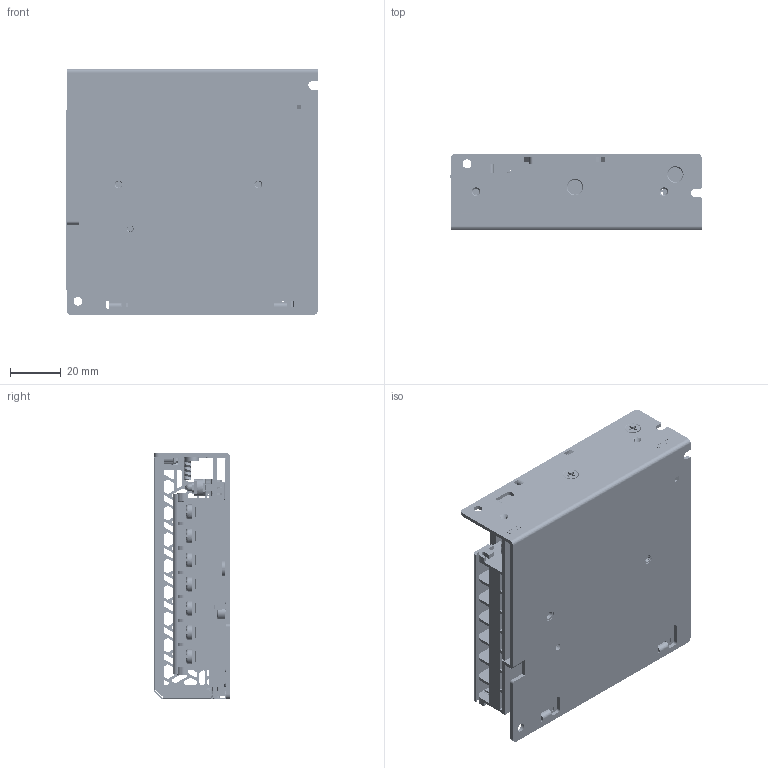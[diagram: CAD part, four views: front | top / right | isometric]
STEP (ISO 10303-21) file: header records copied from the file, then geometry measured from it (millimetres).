
FILE_DESCRIPTION((''),'2;1');
FILE_NAME('150C_ASM','2022-08-10T',('pe202'),(''),'PRO/ENGINEER BY PARAMETRIC TECHNOLOGY CORPORATION, 2014000','PRO/ENGINEER BY PARAMETRIC TECHNOLOGY CORPORATION, 2014000','');
FILE_SCHEMA(('CONFIG_CONTROL_DESIGN','GEOMETRIC_VALIDATION_PROPERTIES_MIM'));
Products named in the file (1): 150C_ASM
Bounding box: 99.18 x 30 x 97.04 mm (x, y, z)
Volume: 50704.1 mm3; surface area: 80433.2 mm2
Topology: 2 solids, 46 shells, 5118 faces, 14813 edges, 9759 vertices
Faces by surface type: bspline 3244, revolution 1874
Entity records: 247132 total; most frequent: CARTESIAN_POINT 97008, ORIENTED_EDGE 29592, DIRECTION 19788, EDGE_CURVE 14810, VECTOR 9864, LINE 9864, VERTEX_POINT 9761, EDGE_LOOP 5979
